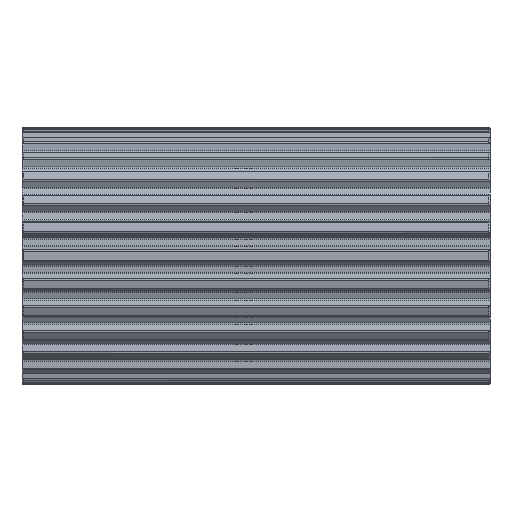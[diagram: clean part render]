
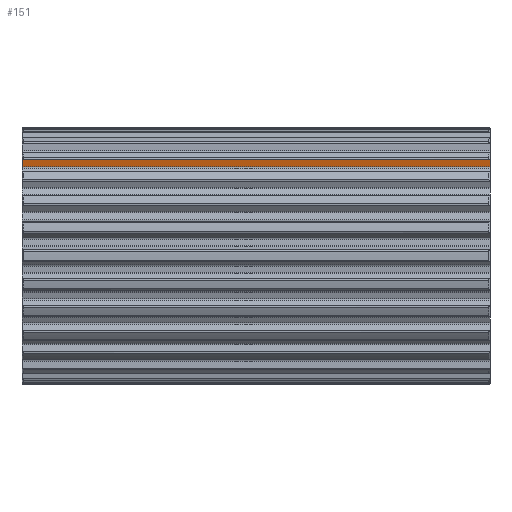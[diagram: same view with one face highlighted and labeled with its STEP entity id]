
A CAD part, top view. The second image highlights one B-rep face of the part: STEP entity #151.
In plain terms, the highlighted planar face has unit normal (0, -0.235, 0.972).
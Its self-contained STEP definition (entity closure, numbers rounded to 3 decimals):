
#151=ADVANCED_FACE('',(#526),#527,.T.);
#526=FACE_OUTER_BOUND('',#1124,.T.);
#527=PLANE('',#1125);
#1124=EDGE_LOOP('',(#2176,#2177,#2178,#2179,#2180,#2181));
#1125=AXIS2_PLACEMENT_3D('',#2182,#2183,#2184);
#2176=ORIENTED_EDGE('',*,*,#4309,.T.);
#2177=ORIENTED_EDGE('',*,*,#4519,.F.);
#2178=ORIENTED_EDGE('',*,*,#4520,.T.);
#2179=ORIENTED_EDGE('',*,*,#4521,.T.);
#2180=ORIENTED_EDGE('',*,*,#4522,.T.);
#2181=ORIENTED_EDGE('',*,*,#4517,.F.);
#2182=CARTESIAN_POINT('',(0.0,31.626,28.518));
#2183=DIRECTION('',(0.,-0.235,0.972));
#2184=DIRECTION('',(0.,-0.972,-0.235));
#4309=EDGE_CURVE('',#5268,#5266,#5269,.T.);
#4517=EDGE_CURVE('',#5268,#5651,#5652,.T.);
#4519=EDGE_CURVE('',#5654,#5266,#5655,.T.);
#4520=EDGE_CURVE('',#5654,#5656,#5657,.T.);
#4521=EDGE_CURVE('',#5656,#5658,#5659,.T.);
#4522=EDGE_CURVE('',#5658,#5651,#5660,.T.);
#5266=VERTEX_POINT('',#7060);
#5268=VERTEX_POINT('',#7062);
#5269=(B_SPLINE_CURVE(2,(#7064,#7065,#7066),.UNSPECIFIED.,.F.,.F.)B_SPLINE_CURVE_WITH_KNOTS((3,3),(0.0,0.754),.UNSPECIFIED.)RATIONAL_B_SPLINE_CURVE((1.0,1.,1.0))BOUNDED_CURVE()REPRESENTATION_ITEM('')GEOMETRIC_REPRESENTATION_ITEM()CURVE());
#5651=VERTEX_POINT('',#8275);
#5652=LINE('',#8276,#8277);
#5654=VERTEX_POINT('',#8286);
#5655=LINE('',#8287,#8288);
#5656=VERTEX_POINT('',#8289);
#5657=LINE('',#8290,#8291);
#5658=VERTEX_POINT('',#8292);
#5659=LINE('',#8293,#8294);
#5660=(B_SPLINE_CURVE(2,(#8296,#8297,#8298),.UNSPECIFIED.,.F.,.F.)B_SPLINE_CURVE_WITH_KNOTS((3,3),(0.0,0.754),.UNSPECIFIED.)RATIONAL_B_SPLINE_CURVE((1.0,1.,1.0))BOUNDED_CURVE()REPRESENTATION_ITEM('')GEOMETRIC_REPRESENTATION_ITEM()CURVE());
#7060=CARTESIAN_POINT('',(0.0,32.706,28.779));
#7062=CARTESIAN_POINT('',(0.087,32.802,28.802));
#7064=CARTESIAN_POINT('',(0.5,33.255,28.911));
#7065=CARTESIAN_POINT('',(0.248,32.979,28.844));
#7066=CARTESIAN_POINT('',(0.0,32.706,28.779));
#8275=CARTESIAN_POINT('',(159.913,32.802,28.802));
#8276=CARTESIAN_POINT('',(0.0,32.802,28.802));
#8277=VECTOR('',#10491,1.0);
#8286=CARTESIAN_POINT('',(0.0,30.451,28.234));
#8287=CARTESIAN_POINT('',(0.0,30.451,28.234));
#8288=VECTOR('',#10492,1.);
#8289=CARTESIAN_POINT('',(160.0,30.451,28.234));
#8290=CARTESIAN_POINT('',(0.0,30.451,28.234));
#8291=VECTOR('',#10493,1.0);
#8292=CARTESIAN_POINT('',(160.0,32.706,28.779));
#8293=CARTESIAN_POINT('',(160.0,30.451,28.234));
#8294=VECTOR('',#10494,1.);
#8296=CARTESIAN_POINT('',(160.0,32.706,28.779));
#8297=CARTESIAN_POINT('',(159.752,32.979,28.844));
#8298=CARTESIAN_POINT('',(159.5,33.255,28.911));
#10491=DIRECTION('',(1.0,0.,0.));
#10492=DIRECTION('',(0.,0.972,0.235));
#10493=DIRECTION('',(1.0,0.,0.));
#10494=DIRECTION('',(0.,0.972,0.235));
